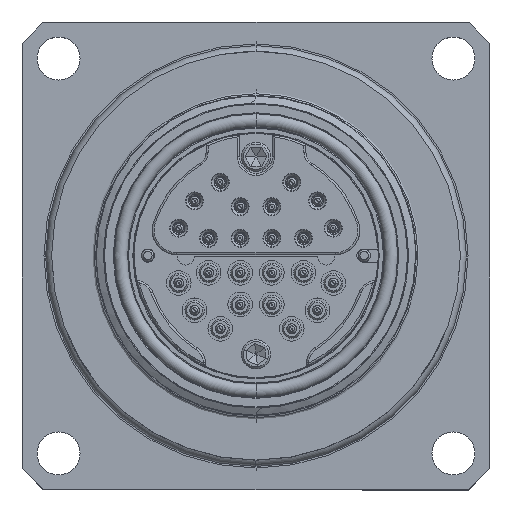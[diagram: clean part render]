
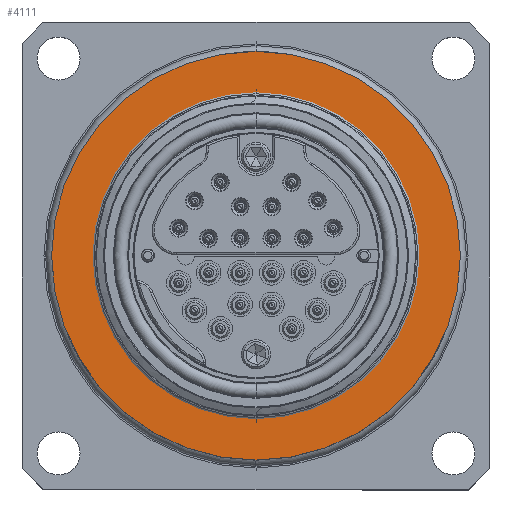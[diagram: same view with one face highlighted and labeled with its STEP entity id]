
A CAD part, top view. The second image highlights one B-rep face of the part: STEP entity #4111.
In plain terms, the highlighted planar face has unit normal (0, 0, 1).
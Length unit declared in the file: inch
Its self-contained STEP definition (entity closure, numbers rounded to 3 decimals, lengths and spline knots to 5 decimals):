
#679 = EDGE_CURVE ( 'NONE', #28288, #3197, #10888, .T. ) ;
#1772 = ORIENTED_EDGE ( 'NONE', *, *, #36150, .F. ) ;
#2358 = CARTESIAN_POINT ( 'NONE',  ( -1.035, 0., -0.506 ) ) ;
#2544 = FACE_OUTER_BOUND ( 'NONE', #5214, .T. ) ;
#3197 = VERTEX_POINT ( 'NONE', #13919 ) ;
#3227 = DIRECTION ( 'NONE',  ( 0., 0., 1. ) ) ;
#4111 = ADVANCED_FACE ( 'NONE', ( #5711, #2544 ), #28105, .F. ) ;
#4695 = EDGE_CURVE ( 'NONE', #21494, #32809, #10045, .T. ) ;
#5214 = EDGE_LOOP ( 'NONE', ( #33449, #33391 ) ) ;
#5711 = FACE_BOUND ( 'NONE', #8296, .T. ) ;
#6360 = CIRCLE ( 'NONE', #33982, 0.82 ) ;
#7571 = CARTESIAN_POINT ( 'NONE',  ( 0., 0.82, -0.506 ) ) ;
#8255 = DIRECTION ( 'NONE',  ( 0., 1., 0. ) ) ;
#8296 = EDGE_LOOP ( 'NONE', ( #29771, #1772 ) ) ;
#10045 = CIRCLE ( 'NONE', #27458, 1.035 ) ;
#10888 = CIRCLE ( 'NONE', #31304, 0.82 ) ;
#13831 = DIRECTION ( 'NONE',  ( 0., -1., 0. ) ) ;
#13919 = CARTESIAN_POINT ( 'NONE',  ( 0., -0.82, -0.506 ) ) ;
#14691 = DIRECTION ( 'NONE',  ( 0., 1., 0. ) ) ;
#15490 = AXIS2_PLACEMENT_3D ( 'NONE', #2358, #33927, #13831 ) ;
#19444 = DIRECTION ( 'NONE',  ( 0., 0., 1. ) ) ;
#19561 = AXIS2_PLACEMENT_3D ( 'NONE', #34086, #19444, #25616 ) ;
#21494 = VERTEX_POINT ( 'NONE', #36040 ) ;
#22087 = DIRECTION ( 'NONE',  ( 0., 1., 0. ) ) ;
#22638 = DIRECTION ( 'NONE',  ( 0., 0., 1. ) ) ;
#23246 = EDGE_CURVE ( 'NONE', #32809, #21494, #35761, .T. ) ;
#25616 = DIRECTION ( 'NONE',  ( 0., 1., 0. ) ) ;
#25903 = DIRECTION ( 'NONE',  ( 0., 0., 1. ) ) ;
#27458 = AXIS2_PLACEMENT_3D ( 'NONE', #31812, #3227, #14691 ) ;
#28105 = PLANE ( 'NONE',  #15490 ) ;
#28288 = VERTEX_POINT ( 'NONE', #7571 ) ;
#28295 = CARTESIAN_POINT ( 'NONE',  ( 0., 0., -0.506 ) ) ;
#29771 = ORIENTED_EDGE ( 'NONE', *, *, #679, .F. ) ;
#31304 = AXIS2_PLACEMENT_3D ( 'NONE', #28295, #22638, #22087 ) ;
#31812 = CARTESIAN_POINT ( 'NONE',  ( 0., 0., -0.506 ) ) ;
#32809 = VERTEX_POINT ( 'NONE', #35115 ) ;
#33391 = ORIENTED_EDGE ( 'NONE', *, *, #4695, .T. ) ;
#33449 = ORIENTED_EDGE ( 'NONE', *, *, #23246, .T. ) ;
#33927 = DIRECTION ( 'NONE',  ( 0., 0., -1. ) ) ;
#33982 = AXIS2_PLACEMENT_3D ( 'NONE', #36648, #25903, #8255 ) ;
#34086 = CARTESIAN_POINT ( 'NONE',  ( 0., 0., -0.506 ) ) ;
#35115 = CARTESIAN_POINT ( 'NONE',  ( 0., 1.035, -0.506 ) ) ;
#35761 = CIRCLE ( 'NONE', #19561, 1.035 ) ;
#36040 = CARTESIAN_POINT ( 'NONE',  ( 0., -1.035, -0.506 ) ) ;
#36150 = EDGE_CURVE ( 'NONE', #3197, #28288, #6360, .T. ) ;
#36648 = CARTESIAN_POINT ( 'NONE',  ( 0., 0., -0.506 ) ) ;
